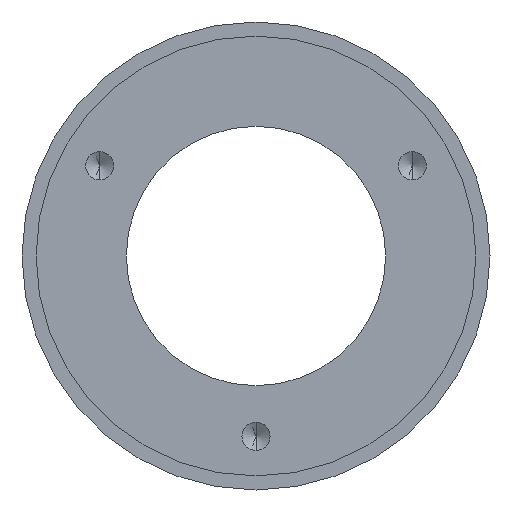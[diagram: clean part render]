
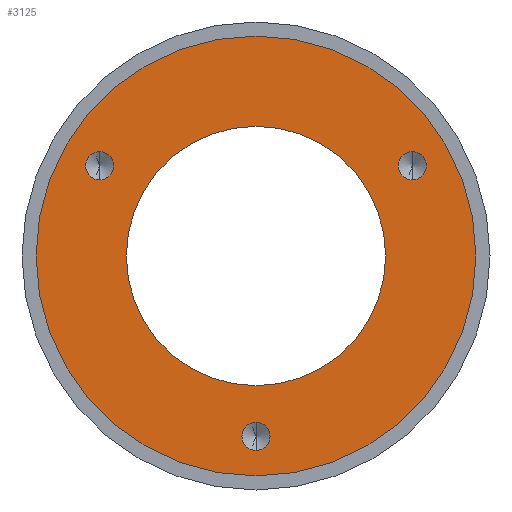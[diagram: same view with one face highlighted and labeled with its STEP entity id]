
A CAD part, front view. The second image highlights one B-rep face of the part: STEP entity #3125.
In plain terms, the highlighted planar face has unit normal (0, -1, 0).
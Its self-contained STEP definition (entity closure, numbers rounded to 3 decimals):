
#188 = FACE_BOUND ( 'NONE', #3115, .T. ) ;
#189 = VERTEX_POINT ( 'NONE', #3084 ) ;
#191 = EDGE_CURVE ( 'NONE', #4453, #4149, #2827, .T. ) ;
#235 = AXIS2_PLACEMENT_3D ( 'NONE', #1794, #2517, #1413 ) ;
#246 = DIRECTION ( 'NONE',  ( 0., 0., -1. ) ) ;
#264 = CARTESIAN_POINT ( 'NONE',  ( -13.856, 0., 8. ) ) ;
#404 = DIRECTION ( 'NONE',  ( 0., 0., 1. ) ) ;
#575 = DIRECTION ( 'NONE',  ( 0., 0., 1. ) ) ;
#666 = EDGE_CURVE ( 'NONE', #4150, #2022, #679, .T. ) ;
#679 = CIRCLE ( 'NONE', #4059, 11.5 ) ;
#685 = CIRCLE ( 'NONE', #3060, 1.25 ) ;
#687 = DIRECTION ( 'NONE',  ( 0., 1., 0. ) ) ;
#694 = AXIS2_PLACEMENT_3D ( 'NONE', #870, #3867, #575 ) ;
#732 = VERTEX_POINT ( 'NONE', #1792 ) ;
#820 = ORIENTED_EDGE ( 'NONE', *, *, #1254, .F. ) ;
#870 = CARTESIAN_POINT ( 'NONE',  ( 0., 0., 0. ) ) ;
#940 = PLANE ( 'NONE',  #694 ) ;
#969 = CARTESIAN_POINT ( 'NONE',  ( 13.856, 0., 8. ) ) ;
#1021 = EDGE_CURVE ( 'NONE', #2022, #4150, #1531, .T. ) ;
#1064 = CARTESIAN_POINT ( 'NONE',  ( 0., 0., 0. ) ) ;
#1088 = DIRECTION ( 'NONE',  ( 0., -1., 0. ) ) ;
#1130 = EDGE_CURVE ( 'NONE', #3817, #2645, #685, .T. ) ;
#1254 = EDGE_CURVE ( 'NONE', #4149, #4453, #3983, .T. ) ;
#1282 = DIRECTION ( 'NONE',  ( 0., -1., 0. ) ) ;
#1376 = AXIS2_PLACEMENT_3D ( 'NONE', #1855, #4021, #1474 ) ;
#1413 = DIRECTION ( 'NONE',  ( 0., 0., -1. ) ) ;
#1474 = DIRECTION ( 'NONE',  ( 0., 0., 1. ) ) ;
#1531 = CIRCLE ( 'NONE', #2300, 11.5 ) ;
#1572 = EDGE_LOOP ( 'NONE', ( #2965, #3642 ) ) ;
#1582 = CARTESIAN_POINT ( 'NONE',  ( 0., 0., 11.5 ) ) ;
#1591 = DIRECTION ( 'NONE',  ( 0., 0., -1. ) ) ;
#1758 = CARTESIAN_POINT ( 'NONE',  ( -13.856, 0., 9.25 ) ) ;
#1791 = EDGE_LOOP ( 'NONE', ( #3737, #2937 ) ) ;
#1792 = CARTESIAN_POINT ( 'NONE',  ( 13.856, 0., 9.25 ) ) ;
#1794 = CARTESIAN_POINT ( 'NONE',  ( 0., 0., -16. ) ) ;
#1843 = AXIS2_PLACEMENT_3D ( 'NONE', #4591, #1282, #4551 ) ;
#1855 = CARTESIAN_POINT ( 'NONE',  ( 0., 0., 0. ) ) ;
#1936 = ORIENTED_EDGE ( 'NONE', *, *, #2455, .F. ) ;
#1950 = EDGE_CURVE ( 'NONE', #4237, #189, #4753, .T. ) ;
#1993 = EDGE_LOOP ( 'NONE', ( #820, #4349 ) ) ;
#2022 = VERTEX_POINT ( 'NONE', #3134 ) ;
#2067 = AXIS2_PLACEMENT_3D ( 'NONE', #969, #4710, #246 ) ;
#2143 = AXIS2_PLACEMENT_3D ( 'NONE', #264, #3486, #3890 ) ;
#2155 = CIRCLE ( 'NONE', #1843, 1.25 ) ;
#2278 = EDGE_CURVE ( 'NONE', #189, #4237, #2683, .T. ) ;
#2300 = AXIS2_PLACEMENT_3D ( 'NONE', #1064, #3158, #3951 ) ;
#2309 = CIRCLE ( 'NONE', #235, 1.25 ) ;
#2354 = FACE_BOUND ( 'NONE', #3989, .T. ) ;
#2455 = EDGE_CURVE ( 'NONE', #732, #2728, #3988, .T. ) ;
#2517 = DIRECTION ( 'NONE',  ( 0., -1., 0. ) ) ;
#2610 = CARTESIAN_POINT ( 'NONE',  ( 0., 0., 0. ) ) ;
#2645 = VERTEX_POINT ( 'NONE', #3676 ) ;
#2683 = CIRCLE ( 'NONE', #1376, 19.5 ) ;
#2728 = VERTEX_POINT ( 'NONE', #3510 ) ;
#2827 = CIRCLE ( 'NONE', #4287, 1.25 ) ;
#2854 = DIRECTION ( 'NONE',  ( 0., 0., 1. ) ) ;
#2937 = ORIENTED_EDGE ( 'NONE', *, *, #2278, .F. ) ;
#2965 = ORIENTED_EDGE ( 'NONE', *, *, #1130, .F. ) ;
#2976 = ORIENTED_EDGE ( 'NONE', *, *, #666, .T. ) ;
#3047 = FACE_BOUND ( 'NONE', #1993, .T. ) ;
#3060 = AXIS2_PLACEMENT_3D ( 'NONE', #3637, #1088, #3297 ) ;
#3066 = AXIS2_PLACEMENT_3D ( 'NONE', #2610, #3695, #404 ) ;
#3084 = CARTESIAN_POINT ( 'NONE',  ( 0., 0., 19.5 ) ) ;
#3115 = EDGE_LOOP ( 'NONE', ( #2976, #4123 ) ) ;
#3125 = ADVANCED_FACE ( 'NONE', ( #3047, #2354, #3484, #188, #3437 ), #940, .F. ) ;
#3134 = CARTESIAN_POINT ( 'NONE',  ( 0., 0., -11.5 ) ) ;
#3155 = EDGE_CURVE ( 'NONE', #2645, #3817, #2309, .T. ) ;
#3158 = DIRECTION ( 'NONE',  ( 0., 1., 0. ) ) ;
#3198 = CARTESIAN_POINT ( 'NONE',  ( 0., 0., -17.25 ) ) ;
#3297 = DIRECTION ( 'NONE',  ( 0., 0., -1. ) ) ;
#3437 = FACE_OUTER_BOUND ( 'NONE', #1791, .T. ) ;
#3448 = DIRECTION ( 'NONE',  ( 0., -1., 0. ) ) ;
#3484 = FACE_BOUND ( 'NONE', #1572, .T. ) ;
#3486 = DIRECTION ( 'NONE',  ( 0., -1., 0. ) ) ;
#3510 = CARTESIAN_POINT ( 'NONE',  ( 13.856, 0., 6.75 ) ) ;
#3594 = CARTESIAN_POINT ( 'NONE',  ( 0., 0., -19.5 ) ) ;
#3637 = CARTESIAN_POINT ( 'NONE',  ( 0., 0., -16. ) ) ;
#3642 = ORIENTED_EDGE ( 'NONE', *, *, #3155, .F. ) ;
#3643 = CARTESIAN_POINT ( 'NONE',  ( 0., 0., 0. ) ) ;
#3676 = CARTESIAN_POINT ( 'NONE',  ( 0., 0., -14.75 ) ) ;
#3695 = DIRECTION ( 'NONE',  ( 0., 1., 0. ) ) ;
#3737 = ORIENTED_EDGE ( 'NONE', *, *, #1950, .F. ) ;
#3772 = CARTESIAN_POINT ( 'NONE',  ( -13.856, 0., 6.75 ) ) ;
#3817 = VERTEX_POINT ( 'NONE', #3198 ) ;
#3867 = DIRECTION ( 'NONE',  ( 0., 1., 0. ) ) ;
#3890 = DIRECTION ( 'NONE',  ( 0., 0., -1. ) ) ;
#3951 = DIRECTION ( 'NONE',  ( 0., 0., 1. ) ) ;
#3983 = CIRCLE ( 'NONE', #2143, 1.25 ) ;
#3988 = CIRCLE ( 'NONE', #2067, 1.25 ) ;
#3989 = EDGE_LOOP ( 'NONE', ( #4516, #1936 ) ) ;
#4021 = DIRECTION ( 'NONE',  ( 0., 1., 0. ) ) ;
#4059 = AXIS2_PLACEMENT_3D ( 'NONE', #3643, #687, #2854 ) ;
#4123 = ORIENTED_EDGE ( 'NONE', *, *, #1021, .T. ) ;
#4149 = VERTEX_POINT ( 'NONE', #3772 ) ;
#4150 = VERTEX_POINT ( 'NONE', #1582 ) ;
#4237 = VERTEX_POINT ( 'NONE', #3594 ) ;
#4287 = AXIS2_PLACEMENT_3D ( 'NONE', #4574, #3448, #1591 ) ;
#4349 = ORIENTED_EDGE ( 'NONE', *, *, #191, .F. ) ;
#4357 = EDGE_CURVE ( 'NONE', #2728, #732, #2155, .T. ) ;
#4453 = VERTEX_POINT ( 'NONE', #1758 ) ;
#4516 = ORIENTED_EDGE ( 'NONE', *, *, #4357, .F. ) ;
#4551 = DIRECTION ( 'NONE',  ( 0., 0., -1. ) ) ;
#4574 = CARTESIAN_POINT ( 'NONE',  ( -13.856, 0., 8. ) ) ;
#4591 = CARTESIAN_POINT ( 'NONE',  ( 13.856, 0., 8. ) ) ;
#4710 = DIRECTION ( 'NONE',  ( 0., -1., 0. ) ) ;
#4753 = CIRCLE ( 'NONE', #3066, 19.5 ) ;
